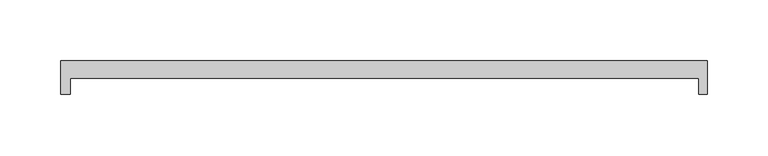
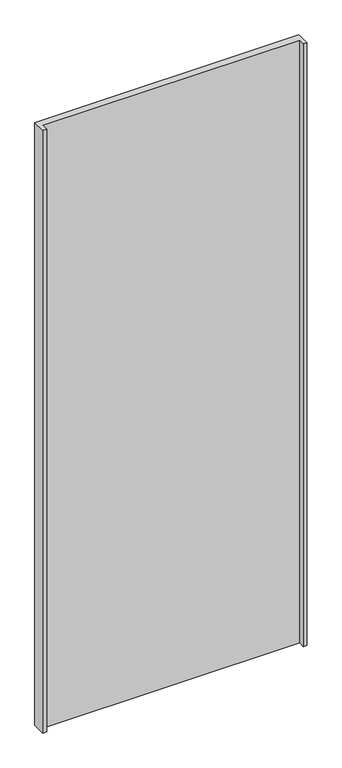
"""IFC4 building model written with IfcOpenShell, lengths in millimetres: plate geometry, Walls_Curtain-Walls_Danpal_AIRPT : Walls_Curtain-Walls_Danpal_AIRPT."""

from ifc_helpers import new_model, si_unit, origin, origin_with_axes, place, context, project, spatial, polyline, outline, extrude, source, transform, mapped, element, save


def plate_08a6ceb8(model_context):
    return source(origin(), model_context, "Body", "SweptSolid", [
        extrude(outline(polyline([(-257.3806431, -14.1228126), (-257.3806431, -27.3924397), (-265.1, -27.3924397), (-265.1, 0.0), (265.0762525, 0.0), (265.0762525, -27.3924397), (258.0762525, -27.3924397), (258.0762525, -14.1228126), (-257.3806431, -14.1228126)])), origin_with_axes(), (0.0, 0.0, 1.0), 1277.1652411),
    ])


if __name__ == "__main__":
    model = new_model("IFC4")
    model_context = context("Model", 3, world=origin())
    ifc_project = project(units=[si_unit("LENGTHUNIT", "METRE", prefix="MILLI")], contexts=[model_context])
    site = spatial("IfcSite", under=ifc_project)
    building = spatial("IfcBuilding", under=site)
    placement = place(None, origin())
    plate_shape = plate_08a6ceb8(model_context)
    element("IfcPlate", 1, ObjectType="Walls_Curtain-Walls_Danpal_AIRPT : Walls_Curtain-Walls_Danpal_AIRPT", at=placement, inside=building, context=model_context, shape_type="MappedRepresentation", body=[
        mapped(plate_shape, transform((0.0, 0.0, 0.0), x_axis=(1.0, 0.0, 0.0), y_axis=(0.0, 1.0, 0.0), z_axis=(0.0, 0.0, 1.0))),
    ])
    save(model, "model.ifc")
